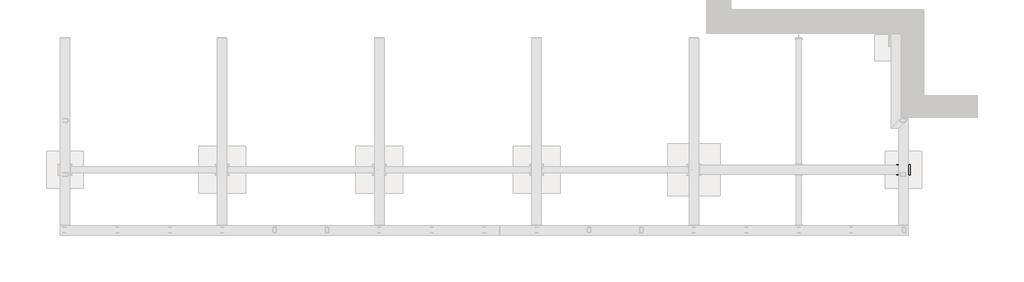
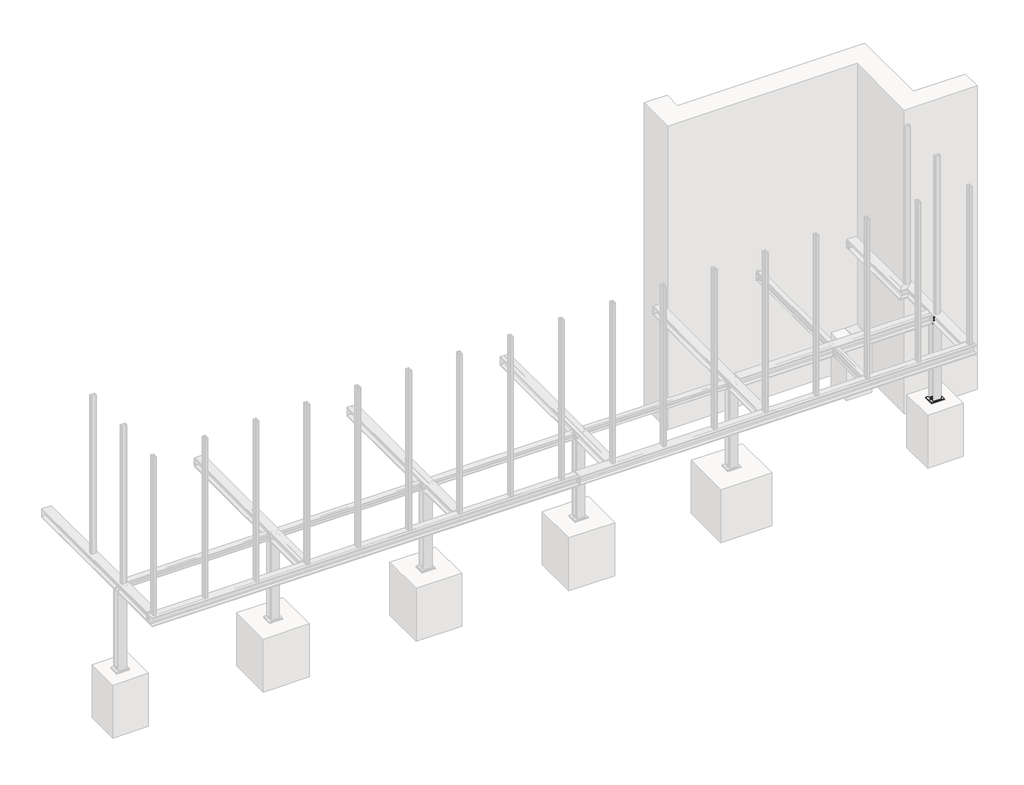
# One storey, part 16 of 31: 6 proxies, 4 assemblies.
"""IFC4 building model written with IfcOpenShell, lengths in millimetres."""

from ifc_helpers import new_model, si_unit, point, frame, frame_2d, origin, place, context, project, spatial, polyline, circle_curve, trimmed, segment, composite_curve, outline, extrude, element, save

model = new_model("IFC4")

# Units and contexts
model_context = context("Model", 3, world=origin())
ifc_project = project(units=[si_unit("LENGTHUNIT", "METRE", prefix="MILLI")], contexts=[model_context])

# Site, building, storey
site = spatial("IfcSite", under=ifc_project)
building = spatial("IfcBuilding", under=site)
storey = spatial("IfcBuildingStorey", under=building, Name="Základy", Elevation=-1200.0)

# Proxies
placement = place(None, origin())
element("IfcBuildingElementProxy", 1, Name="PLECH", ObjectType="PLECH", at=placement, inside=storey, context=model_context, shape_type="SweptSolid", body=[
    extrude(outline(polyline([(16175.0, 1356.0), (16175.0, 1164.0), (15925.0, 1164.0), (15925.0, 1356.0), (16175.0, 1356.0)])), frame((0.0, 0.0, -1990.0), z_axis=(0.0, 0.0, 1.0), x_axis=(1.0, 0.0, 0.0)), (0.0, 0.0, 1.0), 15.0),
])
element("IfcBuildingElementProxy", 2, Name="PLECH", ObjectType="PLECH", at=placement, inside=storey, context=model_context, shape_type="SweptSolid", body=[
    extrude(outline(polyline([(16140.0, 1346.0), (16140.0, 1174.0), (15960.0, 1174.0), (15960.0, 1346.0), (16140.0, 1346.0)])), frame((0.0, 0.0, -350.0), z_axis=(0.0, 0.0, 1.0), x_axis=(1.0, 0.0, 0.0)), (0.0, 0.0, 1.0), 10.0),
])
element("IfcBuildingElementProxy", 3, Name="PLECH", ObjectType="PLECH", at=placement, inside=storey, context=model_context, shape_type="SweptSolid", body=[
    extrude(outline(composite_curve([segment(polyline([(-174.0, 15960.0), (-326.0, 15960.0), (-326.0, 16020.5)]), True, "CONTINUOUS"), segment(trimmed(circle_curve(frame_2d((-326.0, 16045.5)), 25.0), [point((-326.0, 16020.5))], [point((-301.0, 16045.5))], True, "CARTESIAN"), True, "CONTINUOUS"), segment(polyline([(-301.0, 16045.5), (-199.0, 16045.5)]), True, "CONTINUOUS"), segment(trimmed(circle_curve(frame_2d((-174.0, 16045.5)), 25.0), [point((-199.0, 16045.5))], [point((-174.0, 16020.5))], True, "CARTESIAN"), True, "CONTINUOUS"), segment(polyline([(-174.0, 16020.5), (-174.0, 15960.0)]), True, "CONTINUOUS")], self_intersect=False)), frame((0.0, 1256.0, 0.0), z_axis=(0.0, 1.0, 0.0), x_axis=(0.0, 0.0, 1.0)), (0.0, 0.0, 1.0), 8.0),
])
element("IfcBuildingElementProxy", 4, Name="Bolt assembly", ObjectType="Bolt assembly", at=placement, inside=storey, context=model_context, shape_type="SweptSolid", body=[
    extrude(outline(polyline([(15982.7364934, 1260.0), (15978.8682467, 1253.3000002), (15971.1317533, 1253.3000002), (15967.2635066, 1260.0), (15971.1317533, 1266.6999998), (15978.8682467, 1266.6999998), (15982.7364934, 1260.0)])), frame((0.0, 0.0, -2122.0), z_axis=(0.0, 0.0, 1.0), x_axis=(1.0, 0.0, 0.0)), (0.0, 0.0, 1.0), 132.0),
    extrude(outline(composite_curve([segment(trimmed(circle_curve(frame_2d((15975.0, 1260.0)), 8.0), [point((15983.0, 1260.0))], [point((15967.0, 1260.0))], False, "CARTESIAN"), True, "CONTINUOUS"), segment(trimmed(circle_curve(frame_2d((15975.0, 1260.0)), 8.0), [point((15967.0, 1260.0))], [point((15983.0, 1260.0))], False, "CARTESIAN"), True, "CONTINUOUS")], self_intersect=False)), frame((0.0, 0.0, -1990.0), z_axis=(0.0, 0.0, 1.0), x_axis=(1.0, 0.0, 0.0)), (0.0, 0.0, 1.0), 58.0),
    extrude(outline(composite_curve([segment(trimmed(circle_curve(frame_2d((15975.0, 1260.0)), 15.0), [point((15990.0, 1260.0))], [point((15960.0, 1260.0))], False, "CARTESIAN"), True, "CONTINUOUS"), segment(trimmed(circle_curve(frame_2d((15975.0, 1260.0)), 15.0), [point((15960.0, 1260.0))], [point((15990.0, 1260.0))], False, "CARTESIAN"), True, "CONTINUOUS")], self_intersect=False)), frame((0.0, 0.0, -1975.0), z_axis=(0.0, 0.0, 1.0), x_axis=(1.0, 0.0, 0.0)), (0.0, 0.0, 1.0), 3.0),
    extrude(outline(polyline([(15990.4441197, 1260.0), (15982.7220599, 1246.625), (15967.2779401, 1246.625), (15959.5558803, 1260.0), (15967.2779401, 1273.375), (15982.7220599, 1273.375), (15990.4441197, 1260.0)])), frame((0.0, 0.0, -1972.0), z_axis=(0.0, 0.0, 1.0), x_axis=(1.0, 0.0, 0.0)), (0.0, 0.0, 1.0), 13.0),
    extrude(outline(composite_curve([segment(trimmed(circle_curve(frame_2d((15975.0, 1260.0)), 9.0), [point((15984.0, 1260.0))], [point((15966.0, 1260.0))], False, "CARTESIAN"), True, "CONTINUOUS"), segment(trimmed(circle_curve(frame_2d((15975.0, 1260.0)), 9.0), [point((15966.0, 1260.0))], [point((15984.0, 1260.0))], False, "CARTESIAN"), True, "CONTINUOUS")], self_intersect=False)), frame((0.0, 0.0, -1990.0), z_axis=(0.0, 0.0, 1.0), x_axis=(1.0, 0.0, 0.0)), (0.0, 0.0, 1.0), 15.1),
    extrude(outline(polyline([(16132.7364934, 1260.0), (16128.8682467, 1253.3000002), (16121.1317533, 1253.3000002), (16117.2635066, 1260.0), (16121.1317533, 1266.6999998), (16128.8682467, 1266.6999998), (16132.7364934, 1260.0)])), frame((0.0, 0.0, -2122.0), z_axis=(0.0, 0.0, 1.0), x_axis=(1.0, 0.0, 0.0)), (0.0, 0.0, 1.0), 132.0),
    extrude(outline(composite_curve([segment(trimmed(circle_curve(frame_2d((16125.0, 1260.0)), 8.0), [point((16133.0, 1260.0))], [point((16117.0, 1260.0))], False, "CARTESIAN"), True, "CONTINUOUS"), segment(trimmed(circle_curve(frame_2d((16125.0, 1260.0)), 8.0), [point((16117.0, 1260.0))], [point((16133.0, 1260.0))], False, "CARTESIAN"), True, "CONTINUOUS")], self_intersect=False)), frame((0.0, 0.0, -1990.0), z_axis=(0.0, 0.0, 1.0), x_axis=(1.0, 0.0, 0.0)), (0.0, 0.0, 1.0), 58.0),
    extrude(outline(composite_curve([segment(trimmed(circle_curve(frame_2d((16125.0, 1260.0)), 15.0), [point((16140.0, 1260.0))], [point((16110.0, 1260.0))], False, "CARTESIAN"), True, "CONTINUOUS"), segment(trimmed(circle_curve(frame_2d((16125.0, 1260.0)), 15.0), [point((16110.0, 1260.0))], [point((16140.0, 1260.0))], False, "CARTESIAN"), True, "CONTINUOUS")], self_intersect=False)), frame((0.0, 0.0, -1975.0), z_axis=(0.0, 0.0, 1.0), x_axis=(1.0, 0.0, 0.0)), (0.0, 0.0, 1.0), 3.0),
    extrude(outline(polyline([(16140.4441197, 1260.0), (16132.7220599, 1246.625), (16117.2779401, 1246.625), (16109.5558803, 1260.0), (16117.2779401, 1273.375), (16132.7220599, 1273.375), (16140.4441197, 1260.0)])), frame((0.0, 0.0, -1972.0), z_axis=(0.0, 0.0, 1.0), x_axis=(1.0, 0.0, 0.0)), (0.0, 0.0, 1.0), 13.0),
    extrude(outline(composite_curve([segment(trimmed(circle_curve(frame_2d((16125.0, 1260.0)), 9.0), [point((16134.0, 1260.0))], [point((16116.0, 1260.0))], False, "CARTESIAN"), True, "CONTINUOUS"), segment(trimmed(circle_curve(frame_2d((16125.0, 1260.0)), 9.0), [point((16116.0, 1260.0))], [point((16134.0, 1260.0))], False, "CARTESIAN"), True, "CONTINUOUS")], self_intersect=False)), frame((0.0, 0.0, -1990.0), z_axis=(0.0, 0.0, 1.0), x_axis=(1.0, 0.0, 0.0)), (0.0, 0.0, 1.0), 15.1),
])
element("IfcBuildingElementProxy", 5, Name="Bolt assembly", ObjectType="Bolt assembly", at=placement, inside=storey, context=model_context, shape_type="SweptSolid", body=[
    extrude(outline(composite_curve([segment(trimmed(circle_curve(frame_2d((16000.0, 1220.0)), 6.5), [point((16006.5, 1220.0))], [point((15993.5, 1220.0))], False, "CARTESIAN"), True, "CONTINUOUS"), segment(trimmed(circle_curve(frame_2d((16000.0, 1220.0)), 6.5), [point((15993.5, 1220.0))], [point((16006.5, 1220.0))], False, "CARTESIAN"), True, "CONTINUOUS")], self_intersect=False)), frame((0.0, 0.0, -350.0), z_axis=(0.0, 0.0, 1.0), x_axis=(1.0, 0.0, 0.0)), (0.0, 0.0, 1.0), 10.1),
    extrude(outline(polyline([(16010.3923048, 1220.0), (16005.1961524, 1211.0), (15994.8038476, 1211.0), (15989.6076952, 1220.0), (15994.8038476, 1229.0), (16005.1961524, 1229.0), (16010.3923048, 1220.0)])), frame((0.0, 0.0, -323.5), z_axis=(0.0, 0.0, 1.0), x_axis=(1.0, 0.0, 0.0)), (0.0, 0.0, 1.0), 7.5),
    extrude(outline(composite_curve([segment(trimmed(circle_curve(frame_2d((16000.0, 1220.0)), 6.0), [point((16006.0, 1220.0))], [point((15994.0, 1220.0))], False, "CARTESIAN"), True, "CONTINUOUS"), segment(trimmed(circle_curve(frame_2d((16000.0, 1220.0)), 6.0), [point((15994.0, 1220.0))], [point((16006.0, 1220.0))], False, "CARTESIAN"), True, "CONTINUOUS")], self_intersect=False)), frame((0.0, 0.0, -368.5), z_axis=(0.0, 0.0, 1.0), x_axis=(1.0, 0.0, 0.0)), (0.0, 0.0, 1.0), 45.0),
    extrude(outline(composite_curve([segment(trimmed(circle_curve(frame_2d((16000.0, 1220.0)), 12.0), [point((16012.0, 1220.0))], [point((15988.0, 1220.0))], False, "CARTESIAN"), True, "CONTINUOUS"), segment(trimmed(circle_curve(frame_2d((16000.0, 1220.0)), 12.0), [point((15988.0, 1220.0))], [point((16012.0, 1220.0))], False, "CARTESIAN"), True, "CONTINUOUS")], self_intersect=False)), frame((0.0, 0.0, -326.0), z_axis=(0.0, 0.0, 1.0), x_axis=(1.0, 0.0, 0.0)), (0.0, 0.0, 1.0), 2.5),
    extrude(outline(composite_curve([segment(trimmed(circle_curve(frame_2d((16000.0, 1220.0)), 12.0), [point((16012.0, 1220.0))], [point((15988.0, 1220.0))], False, "CARTESIAN"), True, "CONTINUOUS"), segment(trimmed(circle_curve(frame_2d((16000.0, 1220.0)), 12.0), [point((15988.0, 1220.0))], [point((16012.0, 1220.0))], False, "CARTESIAN"), True, "CONTINUOUS")], self_intersect=False)), frame((0.0, 0.0, -352.5), z_axis=(0.0, 0.0, 1.0), x_axis=(1.0, 0.0, 0.0)), (0.0, 0.0, 1.0), 2.5),
    extrude(outline(polyline([(16010.9696551, 1220.0), (16005.4848276, 1210.5), (15994.5151724, 1210.5), (15989.0303449, 1220.0), (15994.5151724, 1229.5), (16005.4848276, 1229.5), (16010.9696551, 1220.0)])), frame((0.0, 0.0, -362.5), z_axis=(0.0, 0.0, 1.0), x_axis=(1.0, 0.0, 0.0)), (0.0, 0.0, 1.0), 10.0),
    extrude(outline(composite_curve([segment(trimmed(circle_curve(frame_2d((16000.0, 1220.0)), 6.5), [point((16006.5, 1220.0))], [point((15993.5, 1220.0))], False, "CARTESIAN"), True, "CONTINUOUS"), segment(trimmed(circle_curve(frame_2d((16000.0, 1220.0)), 6.5), [point((15993.5, 1220.0))], [point((16006.5, 1220.0))], False, "CARTESIAN"), True, "CONTINUOUS")], self_intersect=False)), frame((0.0, 0.0, -340.1), z_axis=(0.0, 0.0, 1.0), x_axis=(1.0, 0.0, 0.0)), (0.0, 0.0, 1.0), 14.0),
    extrude(outline(composite_curve([segment(trimmed(circle_curve(frame_2d((16100.0, 1220.0)), 6.5), [point((16106.5, 1220.0))], [point((16093.5, 1220.0))], False, "CARTESIAN"), True, "CONTINUOUS"), segment(trimmed(circle_curve(frame_2d((16100.0, 1220.0)), 6.5), [point((16093.5, 1220.0))], [point((16106.5, 1220.0))], False, "CARTESIAN"), True, "CONTINUOUS")], self_intersect=False)), frame((0.0, 0.0, -350.0), z_axis=(0.0, 0.0, 1.0), x_axis=(1.0, 0.0, 0.0)), (0.0, 0.0, 1.0), 10.1),
    extrude(outline(polyline([(16110.3923048, 1220.0), (16105.1961524, 1211.0), (16094.8038476, 1211.0), (16089.6076952, 1220.0), (16094.8038476, 1229.0), (16105.1961524, 1229.0), (16110.3923048, 1220.0)])), frame((0.0, 0.0, -323.5), z_axis=(0.0, 0.0, 1.0), x_axis=(1.0, 0.0, 0.0)), (0.0, 0.0, 1.0), 7.5),
    extrude(outline(composite_curve([segment(trimmed(circle_curve(frame_2d((16100.0, 1220.0)), 6.0), [point((16106.0, 1220.0))], [point((16094.0, 1220.0))], False, "CARTESIAN"), True, "CONTINUOUS"), segment(trimmed(circle_curve(frame_2d((16100.0, 1220.0)), 6.0), [point((16094.0, 1220.0))], [point((16106.0, 1220.0))], False, "CARTESIAN"), True, "CONTINUOUS")], self_intersect=False)), frame((0.0, 0.0, -368.5), z_axis=(0.0, 0.0, 1.0), x_axis=(1.0, 0.0, 0.0)), (0.0, 0.0, 1.0), 45.0),
    extrude(outline(composite_curve([segment(trimmed(circle_curve(frame_2d((16100.0, 1220.0)), 12.0), [point((16112.0, 1220.0))], [point((16088.0, 1220.0))], False, "CARTESIAN"), True, "CONTINUOUS"), segment(trimmed(circle_curve(frame_2d((16100.0, 1220.0)), 12.0), [point((16088.0, 1220.0))], [point((16112.0, 1220.0))], False, "CARTESIAN"), True, "CONTINUOUS")], self_intersect=False)), frame((0.0, 0.0, -326.0), z_axis=(0.0, 0.0, 1.0), x_axis=(1.0, 0.0, 0.0)), (0.0, 0.0, 1.0), 2.5),
    extrude(outline(composite_curve([segment(trimmed(circle_curve(frame_2d((16100.0, 1220.0)), 12.0), [point((16112.0, 1220.0))], [point((16088.0, 1220.0))], False, "CARTESIAN"), True, "CONTINUOUS"), segment(trimmed(circle_curve(frame_2d((16100.0, 1220.0)), 12.0), [point((16088.0, 1220.0))], [point((16112.0, 1220.0))], False, "CARTESIAN"), True, "CONTINUOUS")], self_intersect=False)), frame((0.0, 0.0, -352.5), z_axis=(0.0, 0.0, 1.0), x_axis=(1.0, 0.0, 0.0)), (0.0, 0.0, 1.0), 2.5),
    extrude(outline(polyline([(16110.9696551, 1220.0), (16105.4848276, 1210.5), (16094.5151724, 1210.5), (16089.0303449, 1220.0), (16094.5151724, 1229.5), (16105.4848276, 1229.5), (16110.9696551, 1220.0)])), frame((0.0, 0.0, -362.5), z_axis=(0.0, 0.0, 1.0), x_axis=(1.0, 0.0, 0.0)), (0.0, 0.0, 1.0), 10.0),
    extrude(outline(composite_curve([segment(trimmed(circle_curve(frame_2d((16100.0, 1220.0)), 6.5), [point((16106.5, 1220.0))], [point((16093.5, 1220.0))], False, "CARTESIAN"), True, "CONTINUOUS"), segment(trimmed(circle_curve(frame_2d((16100.0, 1220.0)), 6.5), [point((16093.5, 1220.0))], [point((16106.5, 1220.0))], False, "CARTESIAN"), True, "CONTINUOUS")], self_intersect=False)), frame((0.0, 0.0, -340.1), z_axis=(0.0, 0.0, 1.0), x_axis=(1.0, 0.0, 0.0)), (0.0, 0.0, 1.0), 14.0),
    extrude(outline(composite_curve([segment(trimmed(circle_curve(frame_2d((16000.0, 1300.0)), 6.5), [point((16006.5, 1300.0))], [point((15993.5, 1300.0))], False, "CARTESIAN"), True, "CONTINUOUS"), segment(trimmed(circle_curve(frame_2d((16000.0, 1300.0)), 6.5), [point((15993.5, 1300.0))], [point((16006.5, 1300.0))], False, "CARTESIAN"), True, "CONTINUOUS")], self_intersect=False)), frame((0.0, 0.0, -350.0), z_axis=(0.0, 0.0, 1.0), x_axis=(1.0, 0.0, 0.0)), (0.0, 0.0, 1.0), 10.1),
    extrude(outline(polyline([(16010.3923048, 1300.0), (16005.1961524, 1291.0), (15994.8038476, 1291.0), (15989.6076952, 1300.0), (15994.8038476, 1309.0), (16005.1961524, 1309.0), (16010.3923048, 1300.0)])), frame((0.0, 0.0, -323.5), z_axis=(0.0, 0.0, 1.0), x_axis=(1.0, 0.0, 0.0)), (0.0, 0.0, 1.0), 7.5),
    extrude(outline(composite_curve([segment(trimmed(circle_curve(frame_2d((16000.0, 1300.0)), 6.0), [point((16006.0, 1300.0))], [point((15994.0, 1300.0))], False, "CARTESIAN"), True, "CONTINUOUS"), segment(trimmed(circle_curve(frame_2d((16000.0, 1300.0)), 6.0), [point((15994.0, 1300.0))], [point((16006.0, 1300.0))], False, "CARTESIAN"), True, "CONTINUOUS")], self_intersect=False)), frame((0.0, 0.0, -368.5), z_axis=(0.0, 0.0, 1.0), x_axis=(1.0, 0.0, 0.0)), (0.0, 0.0, 1.0), 45.0),
    extrude(outline(composite_curve([segment(trimmed(circle_curve(frame_2d((16000.0, 1300.0)), 12.0), [point((16012.0, 1300.0))], [point((15988.0, 1300.0))], False, "CARTESIAN"), True, "CONTINUOUS"), segment(trimmed(circle_curve(frame_2d((16000.0, 1300.0)), 12.0), [point((15988.0, 1300.0))], [point((16012.0, 1300.0))], False, "CARTESIAN"), True, "CONTINUOUS")], self_intersect=False)), frame((0.0, 0.0, -326.0), z_axis=(0.0, 0.0, 1.0), x_axis=(1.0, 0.0, 0.0)), (0.0, 0.0, 1.0), 2.5),
    extrude(outline(composite_curve([segment(trimmed(circle_curve(frame_2d((16000.0, 1300.0)), 12.0), [point((16012.0, 1300.0))], [point((15988.0, 1300.0))], False, "CARTESIAN"), True, "CONTINUOUS"), segment(trimmed(circle_curve(frame_2d((16000.0, 1300.0)), 12.0), [point((15988.0, 1300.0))], [point((16012.0, 1300.0))], False, "CARTESIAN"), True, "CONTINUOUS")], self_intersect=False)), frame((0.0, 0.0, -352.5), z_axis=(0.0, 0.0, 1.0), x_axis=(1.0, 0.0, 0.0)), (0.0, 0.0, 1.0), 2.5),
    extrude(outline(polyline([(16010.9696551, 1300.0), (16005.4848276, 1290.5), (15994.5151724, 1290.5), (15989.0303449, 1300.0), (15994.5151724, 1309.5), (16005.4848276, 1309.5), (16010.9696551, 1300.0)])), frame((0.0, 0.0, -362.5), z_axis=(0.0, 0.0, 1.0), x_axis=(1.0, 0.0, 0.0)), (0.0, 0.0, 1.0), 10.0),
    extrude(outline(composite_curve([segment(trimmed(circle_curve(frame_2d((16000.0, 1300.0)), 6.5), [point((16006.5, 1300.0))], [point((15993.5, 1300.0))], False, "CARTESIAN"), True, "CONTINUOUS"), segment(trimmed(circle_curve(frame_2d((16000.0, 1300.0)), 6.5), [point((15993.5, 1300.0))], [point((16006.5, 1300.0))], False, "CARTESIAN"), True, "CONTINUOUS")], self_intersect=False)), frame((0.0, 0.0, -340.1), z_axis=(0.0, 0.0, 1.0), x_axis=(1.0, 0.0, 0.0)), (0.0, 0.0, 1.0), 14.0),
    extrude(outline(composite_curve([segment(trimmed(circle_curve(frame_2d((16100.0, 1300.0)), 6.5), [point((16106.5, 1300.0))], [point((16093.5, 1300.0))], False, "CARTESIAN"), True, "CONTINUOUS"), segment(trimmed(circle_curve(frame_2d((16100.0, 1300.0)), 6.5), [point((16093.5, 1300.0))], [point((16106.5, 1300.0))], False, "CARTESIAN"), True, "CONTINUOUS")], self_intersect=False)), frame((0.0, 0.0, -350.0), z_axis=(0.0, 0.0, 1.0), x_axis=(1.0, 0.0, 0.0)), (0.0, 0.0, 1.0), 10.1),
    extrude(outline(polyline([(16110.3923048, 1300.0), (16105.1961524, 1291.0), (16094.8038476, 1291.0), (16089.6076952, 1300.0), (16094.8038476, 1309.0), (16105.1961524, 1309.0), (16110.3923048, 1300.0)])), frame((0.0, 0.0, -323.5), z_axis=(0.0, 0.0, 1.0), x_axis=(1.0, 0.0, 0.0)), (0.0, 0.0, 1.0), 7.5),
    extrude(outline(composite_curve([segment(trimmed(circle_curve(frame_2d((16100.0, 1300.0)), 6.0), [point((16106.0, 1300.0))], [point((16094.0, 1300.0))], False, "CARTESIAN"), True, "CONTINUOUS"), segment(trimmed(circle_curve(frame_2d((16100.0, 1300.0)), 6.0), [point((16094.0, 1300.0))], [point((16106.0, 1300.0))], False, "CARTESIAN"), True, "CONTINUOUS")], self_intersect=False)), frame((0.0, 0.0, -368.5), z_axis=(0.0, 0.0, 1.0), x_axis=(1.0, 0.0, 0.0)), (0.0, 0.0, 1.0), 45.0),
    extrude(outline(composite_curve([segment(trimmed(circle_curve(frame_2d((16100.0, 1300.0)), 12.0), [point((16112.0, 1300.0))], [point((16088.0, 1300.0))], False, "CARTESIAN"), True, "CONTINUOUS"), segment(trimmed(circle_curve(frame_2d((16100.0, 1300.0)), 12.0), [point((16088.0, 1300.0))], [point((16112.0, 1300.0))], False, "CARTESIAN"), True, "CONTINUOUS")], self_intersect=False)), frame((0.0, 0.0, -326.0), z_axis=(0.0, 0.0, 1.0), x_axis=(1.0, 0.0, 0.0)), (0.0, 0.0, 1.0), 2.5),
    extrude(outline(composite_curve([segment(trimmed(circle_curve(frame_2d((16100.0, 1300.0)), 12.0), [point((16112.0, 1300.0))], [point((16088.0, 1300.0))], False, "CARTESIAN"), True, "CONTINUOUS"), segment(trimmed(circle_curve(frame_2d((16100.0, 1300.0)), 12.0), [point((16088.0, 1300.0))], [point((16112.0, 1300.0))], False, "CARTESIAN"), True, "CONTINUOUS")], self_intersect=False)), frame((0.0, 0.0, -352.5), z_axis=(0.0, 0.0, 1.0), x_axis=(1.0, 0.0, 0.0)), (0.0, 0.0, 1.0), 2.5),
    extrude(outline(polyline([(16110.9696551, 1300.0), (16105.4848276, 1290.5), (16094.5151724, 1290.5), (16089.0303449, 1300.0), (16094.5151724, 1309.5), (16105.4848276, 1309.5), (16110.9696551, 1300.0)])), frame((0.0, 0.0, -362.5), z_axis=(0.0, 0.0, 1.0), x_axis=(1.0, 0.0, 0.0)), (0.0, 0.0, 1.0), 10.0),
    extrude(outline(composite_curve([segment(trimmed(circle_curve(frame_2d((16100.0, 1300.0)), 6.5), [point((16106.5, 1300.0))], [point((16093.5, 1300.0))], False, "CARTESIAN"), True, "CONTINUOUS"), segment(trimmed(circle_curve(frame_2d((16100.0, 1300.0)), 6.5), [point((16093.5, 1300.0))], [point((16106.5, 1300.0))], False, "CARTESIAN"), True, "CONTINUOUS")], self_intersect=False)), frame((0.0, 0.0, -340.1), z_axis=(0.0, 0.0, 1.0), x_axis=(1.0, 0.0, 0.0)), (0.0, 0.0, 1.0), 14.0),
])
element("IfcBuildingElementProxy", 6, Name="Bolt assembly", ObjectType="Bolt assembly", at=placement, inside=storey, context=model_context, shape_type="SweptSolid", body=[
    extrude(outline(composite_curve([segment(trimmed(circle_curve(frame_2d((-290.0, 16005.0)), 9.0), [point((-290.0, 16014.0))], [point((-290.0, 15996.0))], False, "CARTESIAN"), True, "CONTINUOUS"), segment(trimmed(circle_curve(frame_2d((-290.0, 16005.0)), 9.0), [point((-290.0, 15996.0))], [point((-290.0, 16014.0))], False, "CARTESIAN"), True, "CONTINUOUS")], self_intersect=False)), frame((0.0, 190.1, 0.0), z_axis=(0.0, 1.0, 0.0), x_axis=(0.0, 0.0, 1.0)), (0.0, 0.0, 1.0), 10.0),
    extrude(outline(polyline([(-290.0, 16018.8564065), (-278.0, 16011.9282032), (-278.0, 15998.0717968), (-290.0, 15991.1435935), (-302.0, 15998.0717968), (-302.0, 16011.9282032), (-290.0, 16018.8564065)])), frame((0.0, 177.0, 0.0), z_axis=(0.0, 1.0, 0.0), x_axis=(0.0, 0.0, 1.0)), (0.0, 0.0, 1.0), 10.0),
    extrude(outline(composite_curve([segment(trimmed(circle_curve(frame_2d((-290.0, 16005.0)), 8.0), [point((-290.0, 16013.0))], [point((-290.0, 15997.0))], False, "CARTESIAN"), True, "CONTINUOUS"), segment(trimmed(circle_curve(frame_2d((-290.0, 16005.0)), 8.0), [point((-290.0, 15997.0))], [point((-290.0, 16013.0))], False, "CARTESIAN"), True, "CONTINUOUS")], self_intersect=False)), frame((0.0, 187.0, 0.0), z_axis=(0.0, 1.0, 0.0), x_axis=(0.0, 0.0, 1.0)), (0.0, 0.0, 1.0), 50.0),
    extrude(outline(composite_curve([segment(trimmed(circle_curve(frame_2d((-290.0, 16005.0)), 15.0), [point((-290.0, 16020.0))], [point((-290.0, 15990.0))], False, "CARTESIAN"), True, "CONTINUOUS"), segment(trimmed(circle_curve(frame_2d((-290.0, 16005.0)), 15.0), [point((-290.0, 15990.0))], [point((-290.0, 16020.0))], False, "CARTESIAN"), True, "CONTINUOUS")], self_intersect=False)), frame((0.0, 187.0, 0.0), z_axis=(0.0, 1.0, 0.0), x_axis=(0.0, 0.0, 1.0)), (0.0, 0.0, 1.0), 3.0),
    extrude(outline(composite_curve([segment(trimmed(circle_curve(frame_2d((-290.0, 16005.0)), 15.0), [point((-290.0, 16020.0))], [point((-290.0, 15990.0))], False, "CARTESIAN"), True, "CONTINUOUS"), segment(trimmed(circle_curve(frame_2d((-290.0, 16005.0)), 15.0), [point((-290.0, 15990.0))], [point((-290.0, 16020.0))], False, "CARTESIAN"), True, "CONTINUOUS")], self_intersect=False)), frame((0.0, 210.0, 0.0), z_axis=(0.0, 1.0, 0.0), x_axis=(0.0, 0.0, 1.0)), (0.0, 0.0, 1.0), 3.0),
    extrude(outline(polyline([(-290.0, 16020.4441197), (-276.625, 16012.7220599), (-276.625, 15997.2779401), (-290.0, 15989.5558803), (-303.375, 15997.2779401), (-303.375, 16012.7220599), (-290.0, 16020.4441197)])), frame((0.0, 213.0, 0.0), z_axis=(0.0, 1.0, 0.0), x_axis=(0.0, 0.0, 1.0)), (0.0, 0.0, 1.0), 13.0),
    extrude(outline(composite_curve([segment(trimmed(circle_curve(frame_2d((-290.0, 16005.0)), 9.0), [point((-290.0, 16014.0))], [point((-290.0, 15996.0))], False, "CARTESIAN"), True, "CONTINUOUS"), segment(trimmed(circle_curve(frame_2d((-290.0, 16005.0)), 9.0), [point((-290.0, 15996.0))], [point((-290.0, 16014.0))], False, "CARTESIAN"), True, "CONTINUOUS")], self_intersect=False)), frame((0.0, 199.9, 0.0), z_axis=(0.0, 1.0, 0.0), x_axis=(0.0, 0.0, 1.0)), (0.0, 0.0, 1.0), 10.1),
    extrude(outline(composite_curve([segment(trimmed(circle_curve(frame_2d((-290.0, 16095.0)), 9.0), [point((-290.0, 16104.0))], [point((-290.0, 16086.0))], False, "CARTESIAN"), True, "CONTINUOUS"), segment(trimmed(circle_curve(frame_2d((-290.0, 16095.0)), 9.0), [point((-290.0, 16086.0))], [point((-290.0, 16104.0))], False, "CARTESIAN"), True, "CONTINUOUS")], self_intersect=False)), frame((0.0, 190.1, 0.0), z_axis=(0.0, 1.0, 0.0), x_axis=(0.0, 0.0, 1.0)), (0.0, 0.0, 1.0), 10.0),
    extrude(outline(polyline([(-290.0, 16108.8564065), (-278.0, 16101.9282032), (-278.0, 16088.0717968), (-290.0, 16081.1435935), (-302.0, 16088.0717968), (-302.0, 16101.9282032), (-290.0, 16108.8564065)])), frame((0.0, 177.0, 0.0), z_axis=(0.0, 1.0, 0.0), x_axis=(0.0, 0.0, 1.0)), (0.0, 0.0, 1.0), 10.0),
    extrude(outline(composite_curve([segment(trimmed(circle_curve(frame_2d((-290.0, 16095.0)), 8.0), [point((-290.0, 16103.0))], [point((-290.0, 16087.0))], False, "CARTESIAN"), True, "CONTINUOUS"), segment(trimmed(circle_curve(frame_2d((-290.0, 16095.0)), 8.0), [point((-290.0, 16087.0))], [point((-290.0, 16103.0))], False, "CARTESIAN"), True, "CONTINUOUS")], self_intersect=False)), frame((0.0, 187.0, 0.0), z_axis=(0.0, 1.0, 0.0), x_axis=(0.0, 0.0, 1.0)), (0.0, 0.0, 1.0), 50.0),
    extrude(outline(composite_curve([segment(trimmed(circle_curve(frame_2d((-290.0, 16095.0)), 15.0), [point((-290.0, 16110.0))], [point((-290.0, 16080.0))], False, "CARTESIAN"), True, "CONTINUOUS"), segment(trimmed(circle_curve(frame_2d((-290.0, 16095.0)), 15.0), [point((-290.0, 16080.0))], [point((-290.0, 16110.0))], False, "CARTESIAN"), True, "CONTINUOUS")], self_intersect=False)), frame((0.0, 187.0, 0.0), z_axis=(0.0, 1.0, 0.0), x_axis=(0.0, 0.0, 1.0)), (0.0, 0.0, 1.0), 3.0),
    extrude(outline(composite_curve([segment(trimmed(circle_curve(frame_2d((-290.0, 16095.0)), 15.0), [point((-290.0, 16110.0))], [point((-290.0, 16080.0))], False, "CARTESIAN"), True, "CONTINUOUS"), segment(trimmed(circle_curve(frame_2d((-290.0, 16095.0)), 15.0), [point((-290.0, 16080.0))], [point((-290.0, 16110.0))], False, "CARTESIAN"), True, "CONTINUOUS")], self_intersect=False)), frame((0.0, 210.0, 0.0), z_axis=(0.0, 1.0, 0.0), x_axis=(0.0, 0.0, 1.0)), (0.0, 0.0, 1.0), 3.0),
    extrude(outline(polyline([(-290.0, 16110.4441197), (-276.625, 16102.7220599), (-276.625, 16087.2779401), (-290.0, 16079.5558803), (-303.375, 16087.2779401), (-303.375, 16102.7220599), (-290.0, 16110.4441197)])), frame((0.0, 213.0, 0.0), z_axis=(0.0, 1.0, 0.0), x_axis=(0.0, 0.0, 1.0)), (0.0, 0.0, 1.0), 13.0),
    extrude(outline(composite_curve([segment(trimmed(circle_curve(frame_2d((-290.0, 16095.0)), 9.0), [point((-290.0, 16104.0))], [point((-290.0, 16086.0))], False, "CARTESIAN"), True, "CONTINUOUS"), segment(trimmed(circle_curve(frame_2d((-290.0, 16095.0)), 9.0), [point((-290.0, 16086.0))], [point((-290.0, 16104.0))], False, "CARTESIAN"), True, "CONTINUOUS")], self_intersect=False)), frame((0.0, 199.9, 0.0), z_axis=(0.0, 1.0, 0.0), x_axis=(0.0, 0.0, 1.0)), (0.0, 0.0, 1.0), 10.1),
    extrude(outline(composite_curve([segment(trimmed(circle_curve(frame_2d((-210.0, 16005.0)), 9.0), [point((-210.0, 16014.0))], [point((-210.0, 15996.0))], False, "CARTESIAN"), True, "CONTINUOUS"), segment(trimmed(circle_curve(frame_2d((-210.0, 16005.0)), 9.0), [point((-210.0, 15996.0))], [point((-210.0, 16014.0))], False, "CARTESIAN"), True, "CONTINUOUS")], self_intersect=False)), frame((0.0, 190.1, 0.0), z_axis=(0.0, 1.0, 0.0), x_axis=(0.0, 0.0, 1.0)), (0.0, 0.0, 1.0), 10.0),
    extrude(outline(polyline([(-210.0, 16018.8564065), (-198.0, 16011.9282032), (-198.0, 15998.0717968), (-210.0, 15991.1435935), (-222.0, 15998.0717968), (-222.0, 16011.9282032), (-210.0, 16018.8564065)])), frame((0.0, 177.0, 0.0), z_axis=(0.0, 1.0, 0.0), x_axis=(0.0, 0.0, 1.0)), (0.0, 0.0, 1.0), 10.0),
    extrude(outline(composite_curve([segment(trimmed(circle_curve(frame_2d((-210.0, 16005.0)), 8.0), [point((-210.0, 16013.0))], [point((-210.0, 15997.0))], False, "CARTESIAN"), True, "CONTINUOUS"), segment(trimmed(circle_curve(frame_2d((-210.0, 16005.0)), 8.0), [point((-210.0, 15997.0))], [point((-210.0, 16013.0))], False, "CARTESIAN"), True, "CONTINUOUS")], self_intersect=False)), frame((0.0, 187.0, 0.0), z_axis=(0.0, 1.0, 0.0), x_axis=(0.0, 0.0, 1.0)), (0.0, 0.0, 1.0), 50.0),
    extrude(outline(composite_curve([segment(trimmed(circle_curve(frame_2d((-210.0, 16005.0)), 15.0), [point((-210.0, 16020.0))], [point((-210.0, 15990.0))], False, "CARTESIAN"), True, "CONTINUOUS"), segment(trimmed(circle_curve(frame_2d((-210.0, 16005.0)), 15.0), [point((-210.0, 15990.0))], [point((-210.0, 16020.0))], False, "CARTESIAN"), True, "CONTINUOUS")], self_intersect=False)), frame((0.0, 187.0, 0.0), z_axis=(0.0, 1.0, 0.0), x_axis=(0.0, 0.0, 1.0)), (0.0, 0.0, 1.0), 3.0),
    extrude(outline(composite_curve([segment(trimmed(circle_curve(frame_2d((-210.0, 16005.0)), 15.0), [point((-210.0, 16020.0))], [point((-210.0, 15990.0))], False, "CARTESIAN"), True, "CONTINUOUS"), segment(trimmed(circle_curve(frame_2d((-210.0, 16005.0)), 15.0), [point((-210.0, 15990.0))], [point((-210.0, 16020.0))], False, "CARTESIAN"), True, "CONTINUOUS")], self_intersect=False)), frame((0.0, 210.0, 0.0), z_axis=(0.0, 1.0, 0.0), x_axis=(0.0, 0.0, 1.0)), (0.0, 0.0, 1.0), 3.0),
    extrude(outline(polyline([(-210.0, 16020.4441197), (-196.625, 16012.7220599), (-196.625, 15997.2779401), (-210.0, 15989.5558803), (-223.375, 15997.2779401), (-223.375, 16012.7220599), (-210.0, 16020.4441197)])), frame((0.0, 213.0, 0.0), z_axis=(0.0, 1.0, 0.0), x_axis=(0.0, 0.0, 1.0)), (0.0, 0.0, 1.0), 13.0),
    extrude(outline(composite_curve([segment(trimmed(circle_curve(frame_2d((-210.0, 16005.0)), 9.0), [point((-210.0, 16014.0))], [point((-210.0, 15996.0))], False, "CARTESIAN"), True, "CONTINUOUS"), segment(trimmed(circle_curve(frame_2d((-210.0, 16005.0)), 9.0), [point((-210.0, 15996.0))], [point((-210.0, 16014.0))], False, "CARTESIAN"), True, "CONTINUOUS")], self_intersect=False)), frame((0.0, 199.9, 0.0), z_axis=(0.0, 1.0, 0.0), x_axis=(0.0, 0.0, 1.0)), (0.0, 0.0, 1.0), 10.1),
    extrude(outline(composite_curve([segment(trimmed(circle_curve(frame_2d((-210.0, 16095.0)), 9.0), [point((-210.0, 16104.0))], [point((-210.0, 16086.0))], False, "CARTESIAN"), True, "CONTINUOUS"), segment(trimmed(circle_curve(frame_2d((-210.0, 16095.0)), 9.0), [point((-210.0, 16086.0))], [point((-210.0, 16104.0))], False, "CARTESIAN"), True, "CONTINUOUS")], self_intersect=False)), frame((0.0, 190.1, 0.0), z_axis=(0.0, 1.0, 0.0), x_axis=(0.0, 0.0, 1.0)), (0.0, 0.0, 1.0), 10.0),
    extrude(outline(polyline([(-210.0, 16108.8564065), (-198.0, 16101.9282032), (-198.0, 16088.0717968), (-210.0, 16081.1435935), (-222.0, 16088.0717968), (-222.0, 16101.9282032), (-210.0, 16108.8564065)])), frame((0.0, 177.0, 0.0), z_axis=(0.0, 1.0, 0.0), x_axis=(0.0, 0.0, 1.0)), (0.0, 0.0, 1.0), 10.0),
    extrude(outline(composite_curve([segment(trimmed(circle_curve(frame_2d((-210.0, 16095.0)), 8.0), [point((-210.0, 16103.0))], [point((-210.0, 16087.0))], False, "CARTESIAN"), True, "CONTINUOUS"), segment(trimmed(circle_curve(frame_2d((-210.0, 16095.0)), 8.0), [point((-210.0, 16087.0))], [point((-210.0, 16103.0))], False, "CARTESIAN"), True, "CONTINUOUS")], self_intersect=False)), frame((0.0, 187.0, 0.0), z_axis=(0.0, 1.0, 0.0), x_axis=(0.0, 0.0, 1.0)), (0.0, 0.0, 1.0), 50.0),
    extrude(outline(composite_curve([segment(trimmed(circle_curve(frame_2d((-210.0, 16095.0)), 15.0), [point((-210.0, 16110.0))], [point((-210.0, 16080.0))], False, "CARTESIAN"), True, "CONTINUOUS"), segment(trimmed(circle_curve(frame_2d((-210.0, 16095.0)), 15.0), [point((-210.0, 16080.0))], [point((-210.0, 16110.0))], False, "CARTESIAN"), True, "CONTINUOUS")], self_intersect=False)), frame((0.0, 187.0, 0.0), z_axis=(0.0, 1.0, 0.0), x_axis=(0.0, 0.0, 1.0)), (0.0, 0.0, 1.0), 3.0),
    extrude(outline(composite_curve([segment(trimmed(circle_curve(frame_2d((-210.0, 16095.0)), 15.0), [point((-210.0, 16110.0))], [point((-210.0, 16080.0))], False, "CARTESIAN"), True, "CONTINUOUS"), segment(trimmed(circle_curve(frame_2d((-210.0, 16095.0)), 15.0), [point((-210.0, 16080.0))], [point((-210.0, 16110.0))], False, "CARTESIAN"), True, "CONTINUOUS")], self_intersect=False)), frame((0.0, 210.0, 0.0), z_axis=(0.0, 1.0, 0.0), x_axis=(0.0, 0.0, 1.0)), (0.0, 0.0, 1.0), 3.0),
    extrude(outline(polyline([(-210.0, 16110.4441197), (-196.625, 16102.7220599), (-196.625, 16087.2779401), (-210.0, 16079.5558803), (-223.375, 16087.2779401), (-223.375, 16102.7220599), (-210.0, 16110.4441197)])), frame((0.0, 213.0, 0.0), z_axis=(0.0, 1.0, 0.0), x_axis=(0.0, 0.0, 1.0)), (0.0, 0.0, 1.0), 13.0),
    extrude(outline(composite_curve([segment(trimmed(circle_curve(frame_2d((-210.0, 16095.0)), 9.0), [point((-210.0, 16104.0))], [point((-210.0, 16086.0))], False, "CARTESIAN"), True, "CONTINUOUS"), segment(trimmed(circle_curve(frame_2d((-210.0, 16095.0)), 9.0), [point((-210.0, 16086.0))], [point((-210.0, 16104.0))], False, "CARTESIAN"), True, "CONTINUOUS")], self_intersect=False)), frame((0.0, 199.9, 0.0), z_axis=(0.0, 1.0, 0.0), x_axis=(0.0, 0.0, 1.0)), (0.0, 0.0, 1.0), 10.1),
])

# Assemblies
element("IfcElementAssembly", 7, at=placement, inside=storey, context=model_context, shape_type="SweptSolid", body=[
    extrude(outline(composite_curve([segment(polyline([(10.0, 1146.4), (10.0, 1193.6)]), True, "CONTINUOUS"), segment(trimmed(circle_curve(frame_2d((16.4, 1193.6)), 6.4), [point((10.0, 1193.6))], [point((16.4, 1200.0))], False, "CARTESIAN"), True, "CONTINUOUS"), segment(polyline([(16.4, 1200.0), (103.6, 1200.0)]), True, "CONTINUOUS"), segment(trimmed(circle_curve(frame_2d((103.6, 1193.6)), 6.4), [point((103.6, 1200.0))], [point((110.0, 1193.6))], False, "CARTESIAN"), True, "CONTINUOUS"), segment(polyline([(110.0, 1193.6), (110.0, 1146.4)]), True, "CONTINUOUS"), segment(trimmed(circle_curve(frame_2d((103.6, 1146.4)), 6.4), [point((110.0, 1146.4))], [point((103.6, 1140.0))], False, "CARTESIAN"), True, "CONTINUOUS"), segment(polyline([(103.6, 1140.0), (16.4, 1140.0)]), True, "CONTINUOUS"), segment(trimmed(circle_curve(frame_2d((16.4, 1146.4)), 6.4), [point((16.4, 1140.0))], [point((10.0, 1146.4))], False, "CARTESIAN"), True, "CONTINUOUS")], self_intersect=False), holes=[composite_curve([segment(trimmed(circle_curve(frame_2d((16.4, 1146.4)), 3.2), [point((13.2, 1146.4))], [point((16.4, 1143.2))], True, "CARTESIAN"), True, "CONTINUOUS"), segment(polyline([(16.4, 1143.2), (103.6, 1143.2)]), True, "CONTINUOUS"), segment(trimmed(circle_curve(frame_2d((103.6, 1146.4)), 3.2), [point((103.6, 1143.2))], [point((106.8, 1146.4))], True, "CARTESIAN"), True, "CONTINUOUS"), segment(polyline([(106.8, 1146.4), (106.8, 1193.6)]), True, "CONTINUOUS"), segment(trimmed(circle_curve(frame_2d((103.6, 1193.6)), 3.2), [point((106.8, 1193.6))], [point((103.6, 1196.8))], True, "CARTESIAN"), True, "CONTINUOUS"), segment(polyline([(103.6, 1196.8), (16.4, 1196.8)]), True, "CONTINUOUS"), segment(trimmed(circle_curve(frame_2d((16.4, 1193.6)), 3.2), [point((16.4, 1196.8))], [point((13.2, 1193.6))], True, "CARTESIAN"), True, "CONTINUOUS"), segment(polyline([(13.2, 1193.6), (13.2, 1146.4)]), True, "CONTINUOUS")], self_intersect=False)]), frame((0.0, 0.0, -160.0), z_axis=(0.0, 0.0, 1.0), x_axis=(1.0, 0.0, 0.0)), (0.0, 0.0, 1.0), 3280.0),
])
element("IfcElementAssembly", 8, at=placement, inside=storey, context=model_context, shape_type="SweptSolid", body=[
    extrude(outline(polyline([(400.0, 1610.0), (400.0, 910.0), (-300.0, 910.0), (-300.0, 1610.0), (400.0, 1610.0)])), frame((0.0, 0.0, -3100.0), z_axis=(0.0, 0.0, 1.0), x_axis=(1.0, 0.0, 0.0)), (0.0, 0.0, 1.0), 1100.0),
])
element("IfcElementAssembly", 9, at=placement, inside=storey, context=model_context, shape_type="SweptSolid", body=[
    extrude(outline(composite_curve([segment(polyline([(1073.6, 60.0), (1026.4, 60.0)]), True, "CONTINUOUS"), segment(trimmed(circle_curve(frame_2d((1026.4, 66.4)), 6.4), [point((1026.4, 60.0))], [point((1020.0, 66.4))], False, "CARTESIAN"), True, "CONTINUOUS"), segment(polyline([(1020.0, 66.4), (1020.0, 153.6)]), True, "CONTINUOUS"), segment(trimmed(circle_curve(frame_2d((1026.4, 153.6)), 6.4), [point((1020.0, 153.6))], [point((1026.4, 160.0))], False, "CARTESIAN"), True, "CONTINUOUS"), segment(polyline([(1026.4, 160.0), (1073.6, 160.0)]), True, "CONTINUOUS"), segment(trimmed(circle_curve(frame_2d((1073.6, 153.6)), 6.4), [point((1073.6, 160.0))], [point((1080.0, 153.6))], False, "CARTESIAN"), True, "CONTINUOUS"), segment(polyline([(1080.0, 153.6), (1080.0, 66.4)]), True, "CONTINUOUS"), segment(trimmed(circle_curve(frame_2d((1073.6, 66.4)), 6.4), [point((1080.0, 66.4))], [point((1073.6, 60.0))], False, "CARTESIAN"), True, "CONTINUOUS")], self_intersect=False), holes=[composite_curve([segment(trimmed(circle_curve(frame_2d((1073.6, 66.4)), 3.2), [point((1073.6, 63.2))], [point((1076.8, 66.4))], True, "CARTESIAN"), True, "CONTINUOUS"), segment(polyline([(1076.8, 66.4), (1076.8, 153.6)]), True, "CONTINUOUS"), segment(trimmed(circle_curve(frame_2d((1073.6, 153.6)), 3.2), [point((1076.8, 153.6))], [point((1073.6, 156.8))], True, "CARTESIAN"), True, "CONTINUOUS"), segment(polyline([(1073.6, 156.8), (1026.4, 156.8)]), True, "CONTINUOUS"), segment(trimmed(circle_curve(frame_2d((1026.4, 153.6)), 3.2), [point((1026.4, 156.8))], [point((1023.2, 153.6))], True, "CARTESIAN"), True, "CONTINUOUS"), segment(polyline([(1023.2, 153.6), (1023.2, 66.4)]), True, "CONTINUOUS"), segment(trimmed(circle_curve(frame_2d((1026.4, 66.4)), 3.2), [point((1023.2, 66.4))], [point((1026.4, 63.2))], True, "CARTESIAN"), True, "CONTINUOUS"), segment(polyline([(1026.4, 63.2), (1073.6, 63.2)]), True, "CONTINUOUS")], self_intersect=False)]), frame((0.0, 0.0, -160.0), z_axis=(0.0, 0.0, 1.0), x_axis=(1.0, 0.0, 0.0)), (0.0, 0.0, 1.0), 3320.0),
])
element("IfcElementAssembly", 10, at=placement, inside=storey, context=model_context, shape_type="SweptSolid", body=[
    extrude(outline(composite_curve([segment(polyline([(63.6, 60.0), (16.4, 60.0)]), True, "CONTINUOUS"), segment(trimmed(circle_curve(frame_2d((16.4, 66.4)), 6.4), [point((16.4, 60.0))], [point((10.0, 66.4))], False, "CARTESIAN"), True, "CONTINUOUS"), segment(polyline([(10.0, 66.4), (10.0, 153.6)]), True, "CONTINUOUS"), segment(trimmed(circle_curve(frame_2d((16.4, 153.6)), 6.4), [point((10.0, 153.6))], [point((16.4, 160.0))], False, "CARTESIAN"), True, "CONTINUOUS"), segment(polyline([(16.4, 160.0), (63.6, 160.0)]), True, "CONTINUOUS"), segment(trimmed(circle_curve(frame_2d((63.6, 153.6)), 6.4), [point((63.6, 160.0))], [point((70.0, 153.6))], False, "CARTESIAN"), True, "CONTINUOUS"), segment(polyline([(70.0, 153.6), (70.0, 66.4)]), True, "CONTINUOUS"), segment(trimmed(circle_curve(frame_2d((63.6, 66.4)), 6.4), [point((70.0, 66.4))], [point((63.6, 60.0))], False, "CARTESIAN"), True, "CONTINUOUS")], self_intersect=False), holes=[composite_curve([segment(trimmed(circle_curve(frame_2d((63.6, 66.4)), 3.2), [point((63.6, 63.2))], [point((66.8, 66.4))], True, "CARTESIAN"), True, "CONTINUOUS"), segment(polyline([(66.8, 66.4), (66.8, 153.6)]), True, "CONTINUOUS"), segment(trimmed(circle_curve(frame_2d((63.6, 153.6)), 3.2), [point((66.8, 153.6))], [point((63.6, 156.8))], True, "CARTESIAN"), True, "CONTINUOUS"), segment(polyline([(63.6, 156.8), (16.4, 156.8)]), True, "CONTINUOUS"), segment(trimmed(circle_curve(frame_2d((16.4, 153.6)), 3.2), [point((16.4, 156.8))], [point((13.2, 153.6))], True, "CARTESIAN"), True, "CONTINUOUS"), segment(polyline([(13.2, 153.6), (13.2, 66.4)]), True, "CONTINUOUS"), segment(trimmed(circle_curve(frame_2d((16.4, 66.4)), 3.2), [point((13.2, 66.4))], [point((16.4, 63.2))], True, "CARTESIAN"), True, "CONTINUOUS"), segment(polyline([(16.4, 63.2), (63.6, 63.2)]), True, "CONTINUOUS")], self_intersect=False)]), frame((0.0, 0.0, -160.0), z_axis=(0.0, 0.0, 1.0), x_axis=(1.0, 0.0, 0.0)), (0.0, 0.0, 1.0), 3280.0),
])

save(model, "model.ifc")
